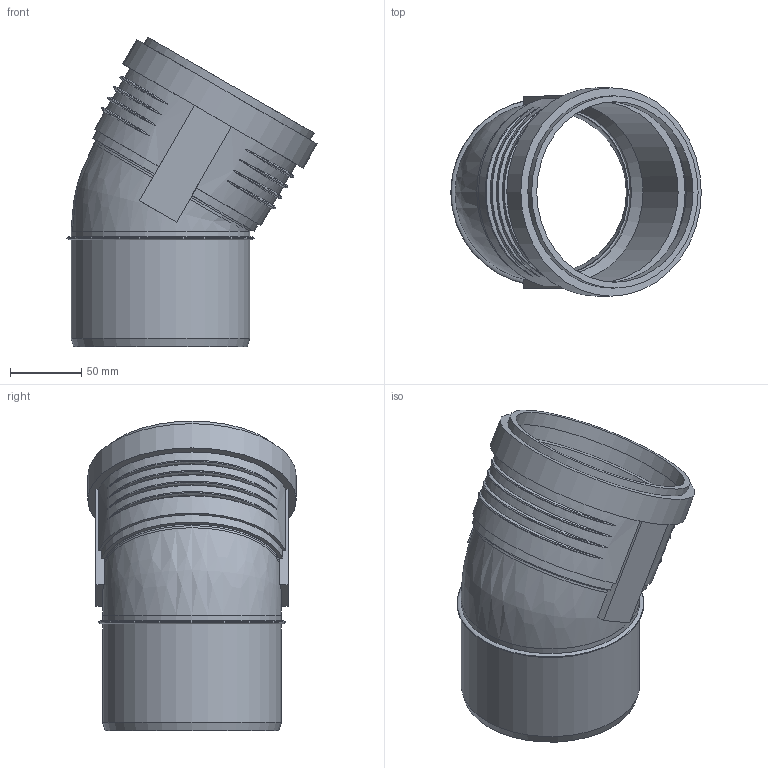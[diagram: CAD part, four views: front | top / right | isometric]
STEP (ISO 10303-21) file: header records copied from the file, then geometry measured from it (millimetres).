
FILE_DESCRIPTION(/* description */ (''),/* implementation_level */ '2;1');
FILE_NAME(/* name */ 'Z:\Geberit\Export\NewStep\390621.stp',/* time_stamp */ '2014-04-02T08:15:45+02:00',/* author */ ('ML'),/* organization */ (''),/* preprocessor_version */ 'ST-DEVELOPER v15.2',/* originating_system */ 'Autodesk Inventor 2014',/* authorisation */ '');
FILE_SCHEMA (('AUTOMOTIVE_DESIGN { 1 0 10303 214 3 1 1 }'));
Length unit declared in the file: millimetre
Products named in the file (3): 861592; 861625; 390621
Bounding box: 175.4 x 145.9 x 217 mm (x, y, z)
Volume: 408393.6 mm3; surface area: 183411.3 mm2
Topology: 2 solids, 2 shells, 68 faces, 162 edges, 109 vertices
Faces by surface type: torus 28, plane 19, cylinder 18, cone 2, bspline 1
Full cylindrical faces by diameter (mm): 114.8 x2, 117 x1, 125.2 x4, 126.4 x2, 134.6 x1, 137.7 x1, 145.9 x1
Entity records: 2726 total; most frequent: CARTESIAN_POINT 1150, DIRECTION 290, ORIENTED_EDGE 278, EDGE_CURVE 139, AXIS2_PLACEMENT_3D 127, VERTEX_POINT 106, EDGE_LOOP 103, STYLED_ITEM 70
